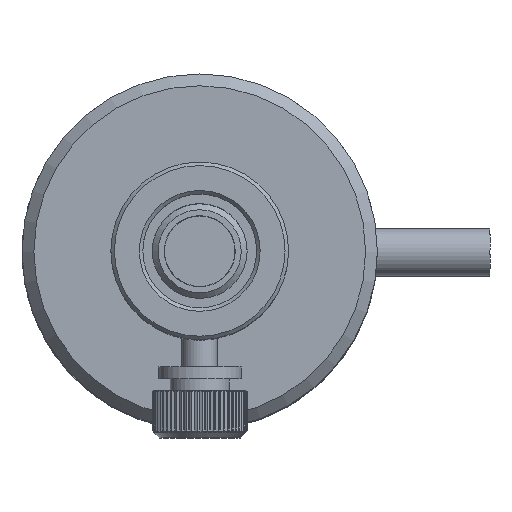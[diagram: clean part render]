
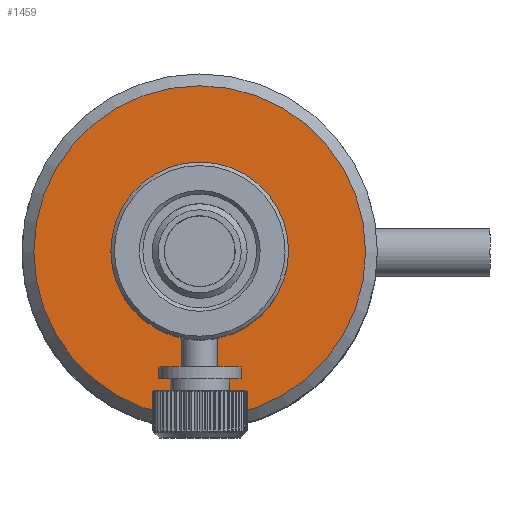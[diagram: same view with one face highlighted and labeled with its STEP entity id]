
A CAD part, top view. The second image highlights one B-rep face of the part: STEP entity #1459.
In plain terms, the highlighted planar face has unit normal (0, 0, 1).
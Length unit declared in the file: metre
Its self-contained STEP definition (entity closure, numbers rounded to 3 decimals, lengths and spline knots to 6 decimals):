
#1459=ADVANCED_FACE('2:6924',(#4145,#4146),#4147,.T.);
#1565=EDGE_CURVE('2:6555',#4344,#4344,#4345,.T.);
#1641=EDGE_CURVE('2:7215',#4458,#4458,#4459,.T.);
#4145=FACE_BOUND('',#7732,.T.);
#4146=FACE_OUTER_BOUND('',#7733,.T.);
#4147=PLANE('',#7734);
#4344=VERTEX_POINT('',#7957);
#4345=CIRCLE('',#7958,0.014);
#4458=VERTEX_POINT('',#8109);
#4459=CIRCLE('',#8110,0.007);
#7732=EDGE_LOOP('',(#12666));
#7733=EDGE_LOOP('',(#12667));
#7734=AXIS2_PLACEMENT_3D('',#12668,#12669,#12670);
#7957=CARTESIAN_POINT('',(-0.014,0.,0.0495));
#7958=AXIS2_PLACEMENT_3D('',#12968,#12969,#12970);
#8109=CARTESIAN_POINT('',(0.007,0.,0.0495));
#8110=AXIS2_PLACEMENT_3D('',#13082,#13083,#13084);
#12666=ORIENTED_EDGE('',*,*,#1641,.F.);
#12667=ORIENTED_EDGE('',*,*,#1565,.F.);
#12668=CARTESIAN_POINT('',(0.0,0.0,0.0495));
#12669=DIRECTION('',(0.0,0.0,1.0));
#12670=DIRECTION('',(1.0,0.0,0.0));
#12968=CARTESIAN_POINT('',(0.0,0.0,0.0495));
#12969=DIRECTION('',(-0.0,0.0,-1.0));
#12970=DIRECTION('',(-1.0,0.,0.0));
#13082=CARTESIAN_POINT('',(0.0,0.0,0.0495));
#13083=DIRECTION('',(0.0,0.0,1.0));
#13084=DIRECTION('',(1.0,0.,0.0));
